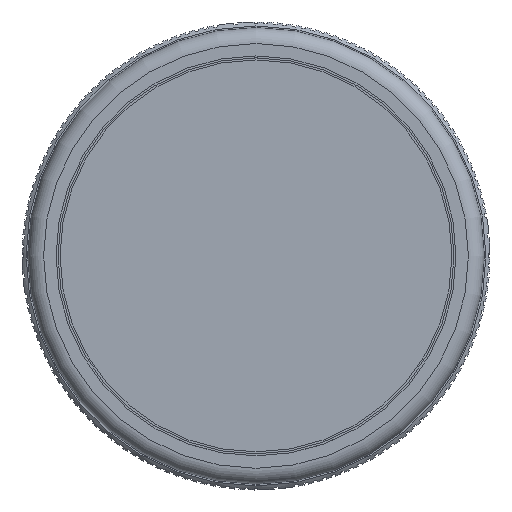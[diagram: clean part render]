
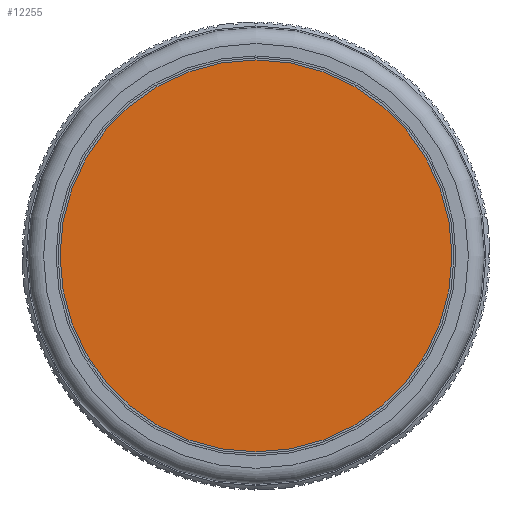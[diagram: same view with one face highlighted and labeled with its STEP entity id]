
A CAD part, top view. The second image highlights one B-rep face of the part: STEP entity #12255.
In plain terms, the highlighted planar face has unit normal (0, 0, 1) as drawn and (-1, 0, 0) by its records, which use the part's own axes.
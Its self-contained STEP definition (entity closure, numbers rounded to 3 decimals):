
#3459=FACE_OUTER_BOUND('',#4080,.T.);
#4080=EDGE_LOOP('',(#11110));
#4555=CIRCLE('',#13384,24.501);
#5747=VERTEX_POINT('',#22998);
#7539=EDGE_CURVE('',#5747,#5747,#4555,.T.);
#11110=ORIENTED_EDGE('',*,*,#7539,.F.);
#11647=PLANE('',#13385);
#12255=ADVANCED_FACE('',(#3459),#11647,.T.);
#13384=AXIS2_PLACEMENT_3D('',#22999,#16836,#16837);
#13385=AXIS2_PLACEMENT_3D('',#23001,#16839,#16840);
#16836=DIRECTION('center_axis',(1.,0.,0.));
#16837=DIRECTION('ref_axis',(0.,0.,1.));
#16839=DIRECTION('center_axis',(-1.,0.,0.));
#16840=DIRECTION('ref_axis',(0.,0.,1.));
#22998=CARTESIAN_POINT('',(169.936,108.808,-24.501));
#22999=CARTESIAN_POINT('Origin',(169.936,108.808,0.));
#23001=CARTESIAN_POINT('Origin',(169.936,108.808,0.));
